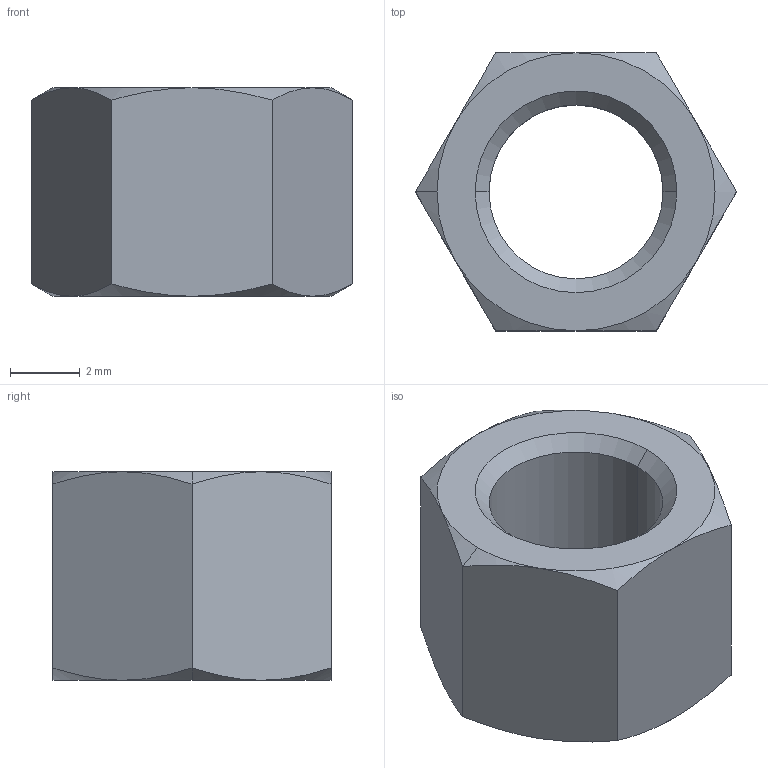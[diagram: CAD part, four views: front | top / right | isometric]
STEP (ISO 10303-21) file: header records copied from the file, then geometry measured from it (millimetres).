
FILE_DESCRIPTION (( 'STEP AP203' ), '1' );
FILE_NAME ('N0503.050-006-NP.step', '2025-02-27T14:43:29', ( '' ), ( '' ), 'SwSTEP 2.0', 'SolidWorks 2019', '' );
FILE_SCHEMA (( 'CONFIG_CONTROL_DESIGN' ));
Length unit declared in the file: millimetre
Products named in the file (1): N0503.050-006-NP
Bounding box: 9.24 x 8 x 6 mm (x, y, z)
Volume: 211 mm3; surface area: 320 mm2
Topology: 1 solids, 1 shells, 28 faces, 60 edges, 34 vertices
Faces by surface type: cone 18, plane 8, cylinder 2
Entity records: 879 total; most frequent: CARTESIAN_POINT 227, ORIENTED_EDGE 120, DIRECTION 116, EDGE_CURVE 60, AXIS2_PLACEMENT_3D 51, VERTEX_POINT 34, EDGE_LOOP 30, ADVANCED_FACE 28
